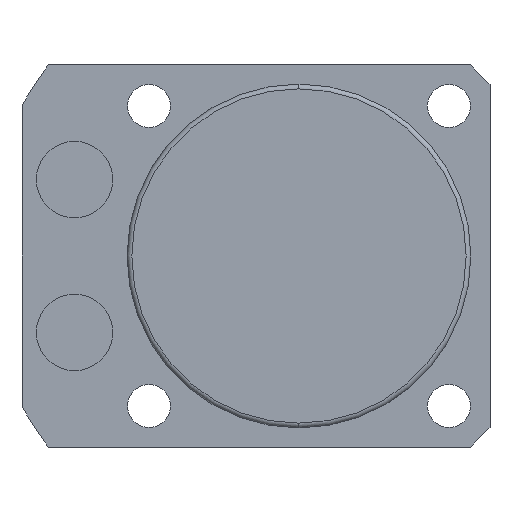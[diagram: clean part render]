
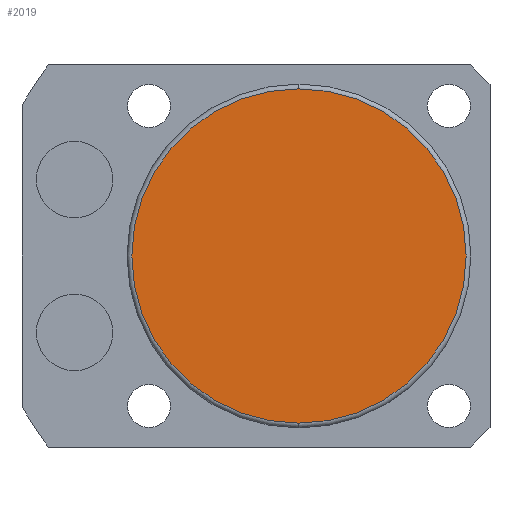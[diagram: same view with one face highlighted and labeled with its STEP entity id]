
A CAD part, front view. The second image highlights one B-rep face of the part: STEP entity #2019.
In plain terms, the highlighted planar face has unit normal (0, -1, 0).
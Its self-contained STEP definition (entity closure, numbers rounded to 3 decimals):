
#41 = DIRECTION ( 'NONE',  ( 0., 0., -1. ) ) ;
#64 = VERTEX_POINT ( 'NONE', #2511 ) ;
#114 = EDGE_CURVE ( 'NONE', #521, #64, #1659, .T. ) ;
#173 = AXIS2_PLACEMENT_3D ( 'NONE', #1481, #2139, #41 ) ;
#205 = FACE_OUTER_BOUND ( 'NONE', #1889, .T. ) ;
#521 = VERTEX_POINT ( 'NONE', #908 ) ;
#586 = CARTESIAN_POINT ( 'NONE',  ( 0., -60.5, 0. ) ) ;
#908 = CARTESIAN_POINT ( 'NONE',  ( 0., -60.5, -17.5 ) ) ;
#1024 = ORIENTED_EDGE ( 'NONE', *, *, #114, .T. ) ;
#1029 = EDGE_CURVE ( 'NONE', #64, #521, #1205, .T. ) ;
#1040 = DIRECTION ( 'NONE',  ( 0., -1., 0. ) ) ;
#1177 = DIRECTION ( 'NONE',  ( 0., 0., -1. ) ) ;
#1205 = CIRCLE ( 'NONE', #1502, 17.5 ) ;
#1247 = DIRECTION ( 'NONE',  ( 0., 0., -1. ) ) ;
#1470 = AXIS2_PLACEMENT_3D ( 'NONE', #2307, #1040, #1247 ) ;
#1481 = CARTESIAN_POINT ( 'NONE',  ( 0., -60.5, 0. ) ) ;
#1502 = AXIS2_PLACEMENT_3D ( 'NONE', #586, #2441, #1177 ) ;
#1659 = CIRCLE ( 'NONE', #173, 17.5 ) ;
#1670 = PLANE ( 'NONE',  #1470 ) ;
#1889 = EDGE_LOOP ( 'NONE', ( #1024, #1899 ) ) ;
#1899 = ORIENTED_EDGE ( 'NONE', *, *, #1029, .T. ) ;
#2019 = ADVANCED_FACE ( 'NONE', ( #205 ), #1670, .T. ) ;
#2139 = DIRECTION ( 'NONE',  ( 0., -1., 0. ) ) ;
#2307 = CARTESIAN_POINT ( 'NONE',  ( 0., -60.5, 0. ) ) ;
#2441 = DIRECTION ( 'NONE',  ( 0., -1., 0. ) ) ;
#2511 = CARTESIAN_POINT ( 'NONE',  ( 0., -60.5, 17.5 ) ) ;
